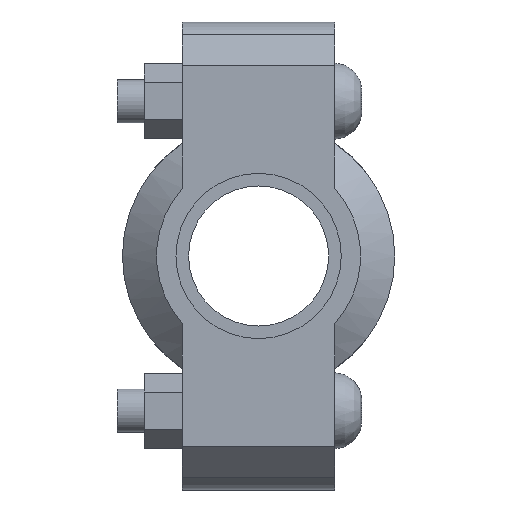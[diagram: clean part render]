
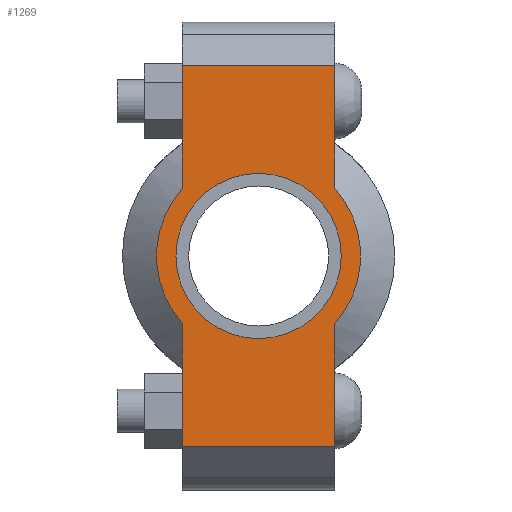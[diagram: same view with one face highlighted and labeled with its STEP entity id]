
A CAD part, left-side view. The second image highlights one B-rep face of the part: STEP entity #1269.
In plain terms, the highlighted planar face has unit normal (-1, 0, 0) as drawn and (0, 0, 1) by its records, which use the part's own axes.
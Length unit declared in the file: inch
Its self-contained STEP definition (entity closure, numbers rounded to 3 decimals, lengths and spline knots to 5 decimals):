
#97=LINE('',#2139,#186);
#112=LINE('',#2198,#201);
#120=LINE('',#2228,#209);
#122=LINE('',#2231,#211);
#123=LINE('',#2236,#212);
#124=LINE('',#2237,#213);
#186=VECTOR('',#1720,0.3937);
#201=VECTOR('',#1755,0.3937);
#209=VECTOR('',#1775,0.3937);
#211=VECTOR('',#1779,0.3937);
#212=VECTOR('',#1784,0.3937);
#213=VECTOR('',#1785,0.3937);
#261=FACE_BOUND('',#390,.T.);
#309=FACE_OUTER_BOUND('',#389,.T.);
#389=EDGE_LOOP('',(#995,#996,#997,#998,#999,#1000,#1001,#1002));
#390=EDGE_LOOP('',(#1003));
#471=CIRCLE('',#1477,1.172);
#472=CIRCLE('',#1478,1.172);
#473=CIRCLE('',#1479,0.95);
#556=VERTEX_POINT('',#2136);
#557=VERTEX_POINT('',#2138);
#578=VERTEX_POINT('',#2193);
#579=VERTEX_POINT('',#2197);
#588=VERTEX_POINT('',#2223);
#589=VERTEX_POINT('',#2227);
#590=VERTEX_POINT('',#2233);
#591=VERTEX_POINT('',#2235);
#592=VERTEX_POINT('',#2239);
#696=EDGE_CURVE('',#557,#556,#97,.T.);
#721=EDGE_CURVE('',#579,#578,#112,.T.);
#734=EDGE_CURVE('',#589,#588,#120,.T.);
#736=EDGE_CURVE('',#589,#556,#122,.T.);
#737=EDGE_CURVE('',#588,#590,#471,.T.);
#738=EDGE_CURVE('',#590,#591,#123,.T.);
#739=EDGE_CURVE('',#579,#591,#124,.T.);
#740=EDGE_CURVE('',#578,#557,#472,.T.);
#741=EDGE_CURVE('',#592,#592,#473,.T.);
#995=ORIENTED_EDGE('',*,*,#736,.F.);
#996=ORIENTED_EDGE('',*,*,#734,.T.);
#997=ORIENTED_EDGE('',*,*,#737,.T.);
#998=ORIENTED_EDGE('',*,*,#738,.T.);
#999=ORIENTED_EDGE('',*,*,#739,.F.);
#1000=ORIENTED_EDGE('',*,*,#721,.T.);
#1001=ORIENTED_EDGE('',*,*,#740,.T.);
#1002=ORIENTED_EDGE('',*,*,#696,.T.);
#1003=ORIENTED_EDGE('',*,*,#741,.T.);
#1146=PLANE('',#1476);
#1269=ADVANCED_FACE('',(#309,#261),#1146,.T.);
#1476=AXIS2_PLACEMENT_3D('',#2232,#1780,#1781);
#1477=AXIS2_PLACEMENT_3D('',#2234,#1782,#1783);
#1478=AXIS2_PLACEMENT_3D('',#2238,#1786,#1787);
#1479=AXIS2_PLACEMENT_3D('',#2240,#1788,#1789);
#1720=DIRECTION('',(1.,0.,0.));
#1755=DIRECTION('',(1.,0.,0.));
#1775=DIRECTION('',(-1.,0.,0.));
#1779=DIRECTION('',(0.,-1.,0.));
#1780=DIRECTION('center_axis',(0.,0.,1.));
#1781=DIRECTION('ref_axis',(-1.,0.,0.));
#1782=DIRECTION('center_axis',(0.,0.,1.));
#1783=DIRECTION('ref_axis',(1.,0.,0.));
#1784=DIRECTION('',(-1.,0.,0.));
#1785=DIRECTION('',(0.,1.,0.));
#1786=DIRECTION('center_axis',(0.,0.,1.));
#1787=DIRECTION('ref_axis',(1.,0.,0.));
#1788=DIRECTION('center_axis',(0.,0.,-1.));
#1789=DIRECTION('ref_axis',(1.,0.,0.));
#2136=CARTESIAN_POINT('',(2.19,-0.875,0.94));
#2138=CARTESIAN_POINT('',(0.77972,-0.875,0.94));
#2139=CARTESIAN_POINT('',(-2.69,-0.875,0.94));
#2193=CARTESIAN_POINT('',(-0.77972,-0.875,0.94));
#2197=CARTESIAN_POINT('',(-2.19,-0.875,0.94));
#2198=CARTESIAN_POINT('',(-2.69,-0.875,0.94));
#2223=CARTESIAN_POINT('',(0.77972,0.875,0.94));
#2227=CARTESIAN_POINT('',(2.19,0.875,0.94));
#2228=CARTESIAN_POINT('',(2.69,0.875,0.94));
#2231=CARTESIAN_POINT('',(2.19,-0.4375,0.94));
#2232=CARTESIAN_POINT('Origin',(0.,0.,
0.94));
#2233=CARTESIAN_POINT('',(-0.77972,0.875,0.94));
#2234=CARTESIAN_POINT('Origin',(0.,0.,0.94));
#2235=CARTESIAN_POINT('',(-2.19,0.875,0.94));
#2236=CARTESIAN_POINT('',(2.69,0.875,0.94));
#2237=CARTESIAN_POINT('',(-2.19,0.4375,0.94));
#2238=CARTESIAN_POINT('Origin',(0.,0.,0.94));
#2239=CARTESIAN_POINT('',(-0.95,0.,0.94));
#2240=CARTESIAN_POINT('Origin',(0.,0.,0.94));
